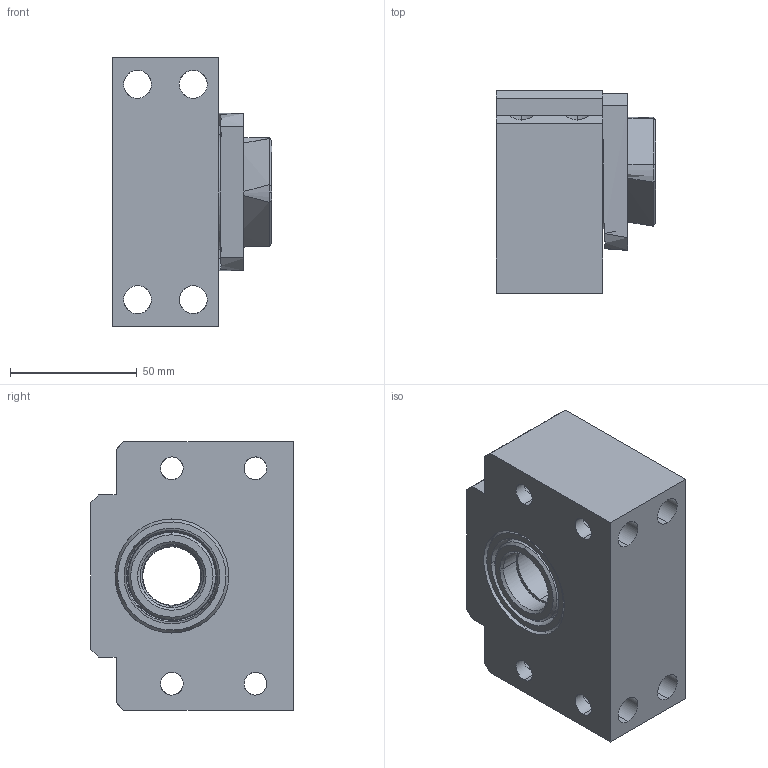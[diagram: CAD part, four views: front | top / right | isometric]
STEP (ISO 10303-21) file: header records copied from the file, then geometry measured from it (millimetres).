
FILE_DESCRIPTION (( 'STEP AP214' ), '1' );
FILE_NAME ('7.4005 BK25.STEP', '2026-03-05T13:55:56', ( '' ), ( '' ), 'SwSTEP 2.0', 'SolidWorks 2025', '' );
FILE_SCHEMA (( 'AUTOMOTIVE_DESIGN' ));
Length unit declared in the file: millimetre
Products named in the file (1): 7.4005 BK25
Bounding box: 63 x 80.1 x 106 mm (x, y, z)
Surface area: 60669.7 mm2 (no closed solid volume)
Topology: 0 solids, 16 shells, 284 faces, 827 edges, 535 vertices
Faces by surface type: plane 112, cylinder 73, cone 50, bspline 41, sphere 8
Entity records: 19791 total; most frequent: CARTESIAN_POINT 14274, ORIENTED_EDGE 1434, EDGE_CURVE 785, B_SPLINE_CURVE_WITH_KNOTS 755, VERTEX_POINT 529, DIRECTION 486, EDGE_LOOP 336, FACE_OUTER_BOUND 278
